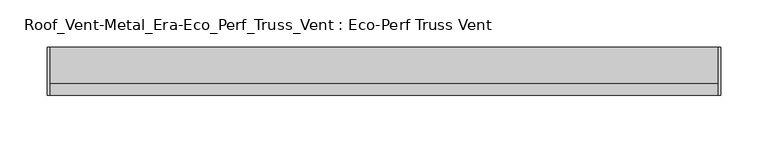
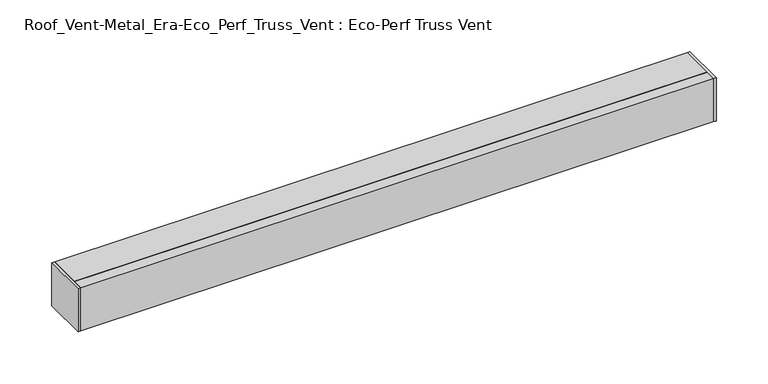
"""IFC4 building model written with IfcOpenShell, lengths in millimetres: proxy geometry, Roof_Vent-Metal_Era-Eco_Perf_Truss_Vent : Eco-Perf Truss Vent."""

import ifcopenshell
import ifcopenshell.guid

model = None  # the IFC model being written
_history = None  # IfcOwnerHistory: only IFC2X3 demands one
_inside = {}  # id of a spatial element -> (the spatial element, [elements in it])
_under = {}  # id of a project, library or spatial element -> (it, [spatial elements below it])
_declared = {}  # id of a project -> (the project, [libraries it declares])
_typed = {}  # id of a type object -> (the type object, [elements of that type])
_made_of = {}  # id of a material, layer set ... -> (it, [elements and type objects made of it])


def new_model(schema):
    """Start an empty IFC model of exactly this schema.

    Asked for "IFC4X3", IfcOpenShell would pick the latest addendum, in which some entities
    have other attributes; the version numbers below select the first issue.
    IFC2X3 requires an IfcOwnerHistory on every rooted entity: one is made here for all.
    """
    global model, _history
    if schema == "IFC4X3":
        model = ifcopenshell.file(schema_version=(4, 3, 0, 0))
    else:
        model = ifcopenshell.file(schema=schema)
    _inside.clear()
    _under.clear()
    _declared.clear()
    _typed.clear()
    _made_of.clear()
    _history = None
    if model.schema == "IFC2X3":
        org = make("IfcOrganization", Name="unknown")
        user = make(
            "IfcPersonAndOrganization",
            ThePerson=make("IfcPerson", FamilyName="unknown"),
            TheOrganization=org,
        )
        app = make(
            "IfcApplication",
            ApplicationDeveloper=org,
            Version="unknown",
            ApplicationFullName="unknown",
            ApplicationIdentifier="unknown",
        )
        _history = make(
            "IfcOwnerHistory",
            OwningUser=user,
            OwningApplication=app,
            ChangeAction="ADDED",
            CreationDate=0,
        )
    return model


def make(cls, **values):
    """One entity of the class cls with the attributes given. An attribute that is None is left unset."""
    return model.create_entity(
        cls, **{name: value for name, value in values.items() if value is not None}
    )


def rooted(cls, **values):
    """An entity with a GlobalId (a new one), such as an element, a storey or a relation."""
    return make(cls, GlobalId=ifcopenshell.guid.new(), OwnerHistory=_history, **values)


def si_unit(unit_type, name, prefix=None):
    """IfcSIUnit, for example si_unit("LENGTHUNIT", "METRE", prefix="MILLI")."""
    return make("IfcSIUnit", UnitType=unit_type, Prefix=prefix, Name=name)


def assignment(units):
    """IfcUnitAssignment: the units of a project."""
    return None if units is None else make("IfcUnitAssignment", Units=units)


def point(xyz):
    """IfcCartesianPoint."""
    return None if xyz is None else make("IfcCartesianPoint", Coordinates=xyz)


def direction(xyz):
    """IfcDirection."""
    return None if xyz is None else make("IfcDirection", DirectionRatios=xyz)


def frame(location, z_axis=None, x_axis=None):
    """IfcAxis2Placement3D, a coordinate frame: its origin and axes. An axis left out is left unset."""
    return make(
        "IfcAxis2Placement3D",
        Location=point(location),
        Axis=direction(z_axis),
        RefDirection=direction(x_axis),
    )


def origin():
    """The frame at (0, 0, 0) with its axes left unset."""
    return frame((0.0, 0.0, 0.0))


def origin_with_axes():
    """The frame at (0, 0, 0) with the z axis (0, 0, 1) and the x axis (1, 0, 0) written out."""
    return frame((0.0, 0.0, 0.0), z_axis=(0.0, 0.0, 1.0), x_axis=(1.0, 0.0, 0.0))


def place(relative_to, where):
    """IfcLocalPlacement: puts the frame where relative to a parent placement (None: the world)."""
    return make(
        "IfcLocalPlacement", PlacementRelTo=relative_to, RelativePlacement=where
    )


def context(
    kind, dimensions, precision=None, world=None, true_north=None, identifier=None
):
    """IfcGeometricRepresentationContext, for example the 3D "Model" context."""
    return make(
        "IfcGeometricRepresentationContext",
        ContextIdentifier=identifier,
        ContextType=kind,
        CoordinateSpaceDimension=dimensions,
        Precision=precision,
        WorldCoordinateSystem=world,
        TrueNorth=true_north,
    )


def project(units=None, contexts=None):
    """IfcProject with its units and contexts."""
    return rooted(
        "IfcProject",
        Name="project",
        RepresentationContexts=contexts,
        UnitsInContext=assignment(units),
    )


def spatial(cls, under=None, at=None, **own):
    """A site, building, storey or space (cls), placed at a placement, below another one or the project."""
    s = rooted(cls, ObjectPlacement=at, **own)
    if under is not None:
        _under.setdefault(under.id(), (under, []))[1].append(s)
    return s


def polyline(points):
    """IfcPolyline through the points."""
    return make("IfcPolyline", Points=[point(p) for p in points])


def outline(outer, holes=None, kind="AREA"):
    """IfcArbitraryClosedProfileDef: a profile drawn as a closed curve; with holes, ...WithVoids."""
    if holes is None:
        return make("IfcArbitraryClosedProfileDef", ProfileType=kind, OuterCurve=outer)
    return make(
        "IfcArbitraryProfileDefWithVoids",
        ProfileType=kind,
        OuterCurve=outer,
        InnerCurves=holes,
    )


def extrude(swept, where, along, depth):
    """IfcExtrudedAreaSolid: the profile swept, set in the frame where, extruded along a direction by depth."""
    return make(
        "IfcExtrudedAreaSolid",
        SweptArea=swept,
        Position=where,
        ExtrudedDirection=direction(along),
        Depth=depth,
    )


def shape(context_of_items, identifier, shape_type, items):
    """IfcShapeRepresentation: the items that make up one representation, for example the "Body"."""
    return make(
        "IfcShapeRepresentation",
        ContextOfItems=context_of_items,
        RepresentationIdentifier=identifier,
        RepresentationType=shape_type,
        Items=items,
    )


def source(mapping_origin, context_of_items, identifier, shape_type, items):
    """IfcRepresentationMap: a shape defined once, which mapped items show again and again."""
    return make(
        "IfcRepresentationMap",
        MappingOrigin=mapping_origin,
        MappedRepresentation=shape(context_of_items, identifier, shape_type, items),
    )


def transform(
    local_origin,
    x_axis=None,
    y_axis=None,
    z_axis=None,
    scale=None,
    scale2=None,
    scale3=None,
    uniform=True,
):
    """IfcCartesianTransformationOperator3D, or its non-uniform kind. x_axis, y_axis, z_axis: its Axis1, 2, 3."""
    if uniform:
        return make(
            "IfcCartesianTransformationOperator3D",
            Axis1=direction(x_axis),
            Axis2=direction(y_axis),
            LocalOrigin=point(local_origin),
            Scale=scale,
            Axis3=direction(z_axis),
        )
    return make(
        "IfcCartesianTransformationOperator3DnonUniform",
        Axis1=direction(x_axis),
        Axis2=direction(y_axis),
        LocalOrigin=point(local_origin),
        Scale=scale,
        Axis3=direction(z_axis),
        Scale2=scale2,
        Scale3=scale3,
    )


def mapped(mapping_source, mapping_target):
    """IfcMappedItem: shows the shape of a source again, moved by a transform."""
    return make(
        "IfcMappedItem", MappingSource=mapping_source, MappingTarget=mapping_target
    )


def made_of(thing, what):
    """Note that an element or type object is made of a material, layer set ...; save() writes the relation."""
    if what is not None:
        _made_of.setdefault(what.id(), (what, []))[1].append(thing)
    return thing


def element(
    cls,
    number,
    at=None,
    inside=None,
    cuts=None,
    type_object=None,
    material=None,
    context=None,
    identifier="Body",
    shape_type=None,
    held_by="IfcProductDefinitionShape",
    body=None,
    shapes=None,
    **own,
):
    """One element of the class cls, such as IfcWall. Its Tag is "e" and its number.

    at: its placement. inside: the storey or other place that contains it. cuts: it is an
    opening in that element (IfcRelVoidsElement). A single representation is given by context,
    identifier, shape_type and body (its items); several are given by shapes. held_by: the class
    of the entity that holds the representations. save() writes the other relations.
    """
    e = rooted(cls, Tag="e%d" % number, ObjectPlacement=at, **own)
    if body is not None:
        shapes = [shape(context, identifier, shape_type, body)]
    if shapes is not None:
        e.Representation = make(held_by, Representations=shapes)
    if inside is not None:
        _inside.setdefault(inside.id(), (inside, []))[1].append(e)
    if cuts is not None:
        rooted(
            "IfcRelVoidsElement", RelatingBuildingElement=cuts, RelatedOpeningElement=e
        )
    if type_object is not None:
        _typed.setdefault(type_object.id(), (type_object, []))[1].append(e)
    return made_of(e, material)


def aggregate(whole, parts):
    """IfcRelAggregates: a whole, such as a stair, and the parts it consists of."""
    return rooted("IfcRelAggregates", RelatingObject=whole, RelatedObjects=parts)


def save(model, path):
    """Write the relations noted so far, then the file.

    IfcRelAggregates (storeys below a building ...), IfcRelContainedInSpatialStructure (elements
    in a storey), IfcRelDefinesByType, IfcRelAssociatesMaterial and IfcRelDeclares: one each for
    every whole, place, type object, material and project.
    """
    for whole, parts in _under.values():
        aggregate(whole, parts)
    for where, things in _inside.values():
        rooted(
            "IfcRelContainedInSpatialStructure",
            RelatedElements=things,
            RelatingStructure=where,
        )
    for kind, things in _typed.values():
        rooted("IfcRelDefinesByType", RelatedObjects=things, RelatingType=kind)
    for what, things in _made_of.values():
        rooted("IfcRelAssociatesMaterial", RelatedObjects=things, RelatingMaterial=what)
    for by, libraries in _declared.values():
        rooted("IfcRelDeclares", RelatingContext=by, RelatedDefinitions=libraries)
    model.write(path)


def roof_vent_metal_era_eco_perf_truss_vent_eco_perf_truss_vent_0e86e564(model_context):
    return source(origin(), model_context, "Body", "SweptSolid", [
        extrude(outline(polyline([(352.425, 25.4), (352.425, -12.7), (-352.425, -12.7), (-352.425, 25.4), (352.425, 25.4)])), origin_with_axes(), (0.0, 0.0, 1.0), 3.175),
        extrude(outline(polyline([(352.425, 25.4), (352.425, -12.7), (-352.425, -12.7), (-352.425, 25.4), (352.425, 25.4)])), frame((0.0, 0.0, 47.625), z_axis=(0.0, 0.0, 1.0), x_axis=(1.0, 0.0, 0.0)), (0.0, 0.0, 1.0), 3.175),
        extrude(outline(polyline([(-25.4, 50.8), (-12.7, 50.8), (-12.7, 47.625), (-22.225, 47.625), (-22.225, 3.175), (-12.7, 3.175), (-12.7, 0.0), (-25.4, 0.0), (-25.4, 50.8)])), frame((-352.425, 0.0, 0.0), z_axis=(1.0, 0.0, 0.0), x_axis=(0.0, 1.0, 0.0)), (0.0, 0.0, 1.0), 704.85),
        extrude(outline(polyline([(-352.425, 25.4), (-352.425, -25.4), (-355.6, -25.4), (-355.6, 25.4), (-352.425, 25.4)])), origin_with_axes(), (0.0, 0.0, 1.0), 50.8),
        extrude(outline(polyline([(355.6, 25.4), (355.6, -25.4), (352.425, -25.4), (352.425, 25.4), (355.6, 25.4)])), origin_with_axes(), (0.0, 0.0, 1.0), 50.8),
    ])


if __name__ == "__main__":
    model = new_model("IFC4")
    model_context = context("Model", 3, world=origin())
    ifc_project = project(units=[si_unit("LENGTHUNIT", "METRE", prefix="MILLI")], contexts=[model_context])
    site = spatial("IfcSite", under=ifc_project)
    building = spatial("IfcBuilding", under=site)
    placement = place(None, origin())
    roof_vent_metal_era_eco_perf_truss_vent_eco_perf_truss_vent_shape = roof_vent_metal_era_eco_perf_truss_vent_eco_perf_truss_vent_0e86e564(model_context)
    element("IfcBuildingElementProxy", 1, Name="Roof_Vent-Metal_Era-Eco_Perf_Truss_Vent : Eco-Perf Truss Vent", ObjectType="Roof_Vent-Metal_Era-Eco_Perf_Truss_Vent : Eco-Perf Truss Vent", at=placement, inside=building, context=model_context, shape_type="MappedRepresentation", body=[
        mapped(roof_vent_metal_era_eco_perf_truss_vent_eco_perf_truss_vent_shape, transform((0.0, 0.0, 0.0), x_axis=(1.0, 0.0, 0.0), y_axis=(0.0, 1.0, 0.0), z_axis=(0.0, 0.0, 1.0))),
    ])
    save(model, "model.ifc")
